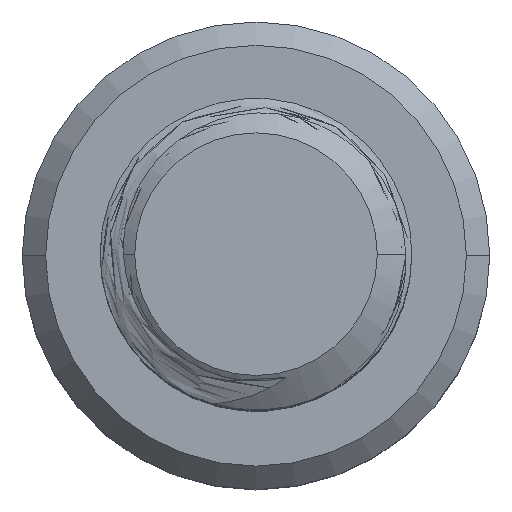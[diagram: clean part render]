
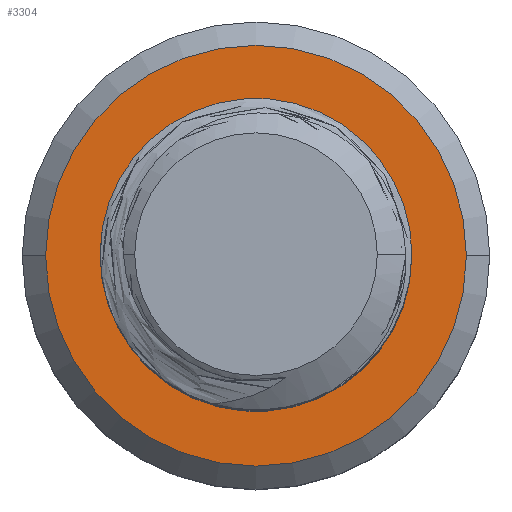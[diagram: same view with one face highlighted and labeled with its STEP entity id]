
A CAD part, top view. The second image highlights one B-rep face of the part: STEP entity #3304.
In plain terms, the highlighted planar face has unit normal (0, 0, 1).
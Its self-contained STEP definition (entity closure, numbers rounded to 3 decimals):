
#55 = CARTESIAN_POINT ( 'NONE',  ( -6.168, -1.765, -40. ) ) ;
#71 = CARTESIAN_POINT ( 'NONE',  ( -5.319, 4.517, -40. ) ) ;
#138 = DIRECTION ( 'NONE',  ( -1., 0., 0. ) ) ;
#173 = CARTESIAN_POINT ( 'NONE',  ( 5.642, 3.058, -40. ) ) ;
#185 = CARTESIAN_POINT ( 'NONE',  ( 3.994, -4.068, -40. ) ) ;
#188 = B_SPLINE_CURVE_WITH_KNOTS ( 'NONE', 3,
 ( #3936, #2180, #460, #3524, #898, #3951, #1339, #4393, #1777, #4820, #2199, #5261, #2643, #55, #3091, #479, #3543, #918, #3972, #1357, #4411, #1797, #4838, #2214, #5282, #2664, #71, #3105 ),
 .UNSPECIFIED., .F., .F.,
 ( 4, 2, 2, 2, 2, 2, 2, 2, 2, 2, 2, 2, 2, 4 ),
 ( 0., 0.001, 0.002, 0.004, 0.006, 0.007, 0.008, 0.008, 0.009, 0.01, 0.011, 0.012, 0.013, 0.015 ),
 .UNSPECIFIED. ) ;
#195 = CARTESIAN_POINT ( 'NONE',  ( 0., 0., -40. ) ) ;
#250 = DIRECTION ( 'NONE',  ( 0., 0., 1. ) ) ;
#255 = VERTEX_POINT ( 'NONE', #5531 ) ;
#276 = ORIENTED_EDGE ( 'NONE', *, *, #3995, .T. ) ;
#285 = CIRCLE ( 'NONE', #5382, 9.45 ) ;
#456 = EDGE_CURVE ( 'NONE', #2930, #255, #285, .T. ) ;
#460 = CARTESIAN_POINT ( 'NONE',  ( -0.63, -5.731, -40. ) ) ;
#479 = CARTESIAN_POINT ( 'NONE',  ( -6.44, -0.863, -40. ) ) ;
#579 = CARTESIAN_POINT ( 'NONE',  ( 1.243, 6.823, -40. ) ) ;
#596 = CARTESIAN_POINT ( 'NONE',  ( 5.955, 2.176, -40. ) ) ;
#598 = AXIS2_PLACEMENT_3D ( 'NONE', #4899, #2739, #138 ) ;
#634 = DIRECTION ( 'NONE',  ( -1., 0., 0. ) ) ;
#667 = AXIS2_PLACEMENT_3D ( 'NONE', #4747, #2128, #5195 ) ;
#759 = CARTESIAN_POINT ( 'NONE',  ( 0., 0., -40. ) ) ;
#898 = CARTESIAN_POINT ( 'NONE',  ( -1.571, -5.639, -40. ) ) ;
#918 = CARTESIAN_POINT ( 'NONE',  ( -6.58, 0.066, -40. ) ) ;
#1020 = CARTESIAN_POINT ( 'NONE',  ( 2.42, 6.367, -40. ) ) ;
#1041 = CARTESIAN_POINT ( 'NONE',  ( 6.132, 1.248, -40. ) ) ;
#1177 = DIRECTION ( 'NONE',  ( 1., 0., 0. ) ) ;
#1293 = CARTESIAN_POINT ( 'NONE',  ( 3.994, -4.068, -40. ) ) ;
#1339 = CARTESIAN_POINT ( 'NONE',  ( -3.073, -5.188, -40. ) ) ;
#1357 = CARTESIAN_POINT ( 'NONE',  ( -6.585, 1.012, -40. ) ) ;
#1372 = VERTEX_POINT ( 'NONE', #4092 ) ;
#1460 = CARTESIAN_POINT ( 'NONE',  ( 3.236, 5.903, -40. ) ) ;
#1471 = CARTESIAN_POINT ( 'NONE',  ( 6.163, 0.308, -40. ) ) ;
#1653 = VERTEX_POINT ( 'NONE', #2471 ) ;
#1777 = CARTESIAN_POINT ( 'NONE',  ( -4.633, -4.127, -40. ) ) ;
#1797 = CARTESIAN_POINT ( 'NONE',  ( -6.455, 1.94, -40. ) ) ;
#1897 = CARTESIAN_POINT ( 'NONE',  ( 3.982, 5.327, -40. ) ) ;
#1917 = CARTESIAN_POINT ( 'NONE',  ( 6.05, -0.628, -40. ) ) ;
#2128 = DIRECTION ( 'NONE',  ( 0., 0., 1. ) ) ;
#2129 = DIRECTION ( 'NONE',  ( -1., 0., 0. ) ) ;
#2131 = CARTESIAN_POINT ( 'NONE',  ( 9.45, 0., -40. ) ) ;
#2180 = CARTESIAN_POINT ( 'NONE',  ( -0.316, -5.729, -40. ) ) ;
#2199 = CARTESIAN_POINT ( 'NONE',  ( -5.438, -3.152, -40. ) ) ;
#2211 = B_SPLINE_CURVE_WITH_KNOTS ( 'NONE', 3,
 ( #3106, #5265, #579, #3648, #1020, #4073, #1460, #4509, #1897, #4951, #2320, #5378, #2769, #173, #3219, #596, #3662, #1041, #4093, #1471, #4525, #1917, #4969, #2335, #5402, #2791, #185 ),
 .UNSPECIFIED., .F., .F.,
 ( 4, 2, 2, 2, 2, 1, 2, 2, 2, 2, 2, 2, 2, 4 ),
 ( 0., 0.002, 0.003, 0.004, 0.005, 0.006, 0.007, 0.007, 0.008, 0.009, 0.01, 0.011, 0.013, 0.015 ),
 .UNSPECIFIED. ) ;
#2214 = CARTESIAN_POINT ( 'NONE',  ( -6.192, 2.85, -40. ) ) ;
#2294 = ORIENTED_EDGE ( 'NONE', *, *, #5238, .T. ) ;
#2320 = CARTESIAN_POINT ( 'NONE',  ( 4.848, 4.416, -40. ) ) ;
#2335 = CARTESIAN_POINT ( 'NONE',  ( 5.571, -2.121, -40. ) ) ;
#2471 = CARTESIAN_POINT ( 'NONE',  ( 0., -5.701, -40. ) ) ;
#2477 = CIRCLE ( 'NONE', #667, 7. ) ;
#2568 = FACE_OUTER_BOUND ( 'NONE', #4083, .T. ) ;
#2598 = ORIENTED_EDGE ( 'NONE', *, *, #5049, .T. ) ;
#2643 = CARTESIAN_POINT ( 'NONE',  ( -5.915, -2.343, -40. ) ) ;
#2664 = CARTESIAN_POINT ( 'NONE',  ( -5.668, 3.985, -40. ) ) ;
#2702 = EDGE_CURVE ( 'NONE', #255, #2930, #2846, .T. ) ;
#2739 = DIRECTION ( 'NONE',  ( 0., 0., -1. ) ) ;
#2769 = CARTESIAN_POINT ( 'NONE',  ( 5.505, 3.344, -40. ) ) ;
#2791 = CARTESIAN_POINT ( 'NONE',  ( 4.488, -3.669, -40. ) ) ;
#2846 = CIRCLE ( 'NONE', #4428, 9.45 ) ;
#2930 = VERTEX_POINT ( 'NONE', #2131 ) ;
#3091 = CARTESIAN_POINT ( 'NONE',  ( -6.274, -1.467, -40. ) ) ;
#3105 = CARTESIAN_POINT ( 'NONE',  ( -4.904, 4.995, -40. ) ) ;
#3106 = CARTESIAN_POINT ( 'NONE',  ( 0., 7., -40. ) ) ;
#3219 = CARTESIAN_POINT ( 'NONE',  ( 5.866, 2.475, -40. ) ) ;
#3241 = DIRECTION ( 'NONE',  ( 0., 0., 1. ) ) ;
#3304 = ADVANCED_FACE ( 'NONE', ( #2568, #5583 ), #5346, .F. ) ;
#3524 = CARTESIAN_POINT ( 'NONE',  ( -1.257, -5.687, -40. ) ) ;
#3543 = CARTESIAN_POINT ( 'NONE',  ( -6.501, -0.557, -40. ) ) ;
#3586 = CARTESIAN_POINT ( 'NONE',  ( -4.904, 4.995, -40. ) ) ;
#3608 = ORIENTED_EDGE ( 'NONE', *, *, #2702, .T. ) ;
#3611 = ORIENTED_EDGE ( 'NONE', *, *, #4335, .F. ) ;
#3648 = CARTESIAN_POINT ( 'NONE',  ( 2.129, 6.497, -40. ) ) ;
#3662 = CARTESIAN_POINT ( 'NONE',  ( 6.088, 1.564, -40. ) ) ;
#3806 = DIRECTION ( 'NONE',  ( 0., 0., -1. ) ) ;
#3936 = CARTESIAN_POINT ( 'NONE',  ( 0., -5.701, -40. ) ) ;
#3951 = CARTESIAN_POINT ( 'NONE',  ( -2.492, -5.424, -40. ) ) ;
#3972 = CARTESIAN_POINT ( 'NONE',  ( -6.597, 0.384, -40. ) ) ;
#3995 = EDGE_CURVE ( 'NONE', #1653, #4894, #188, .T. ) ;
#4034 = EDGE_LOOP ( 'NONE', ( #3611, #2598, #2294, #276 ) ) ;
#4073 = CARTESIAN_POINT ( 'NONE',  ( 2.972, 6.07, -40. ) ) ;
#4083 = EDGE_LOOP ( 'NONE', ( #3608, #4582 ) ) ;
#4086 = CARTESIAN_POINT ( 'NONE',  ( 0., 0., -40. ) ) ;
#4092 = CARTESIAN_POINT ( 'NONE',  ( 0., 7., -40. ) ) ;
#4093 = CARTESIAN_POINT ( 'NONE',  ( 6.169, 0.62, -40. ) ) ;
#4281 = AXIS2_PLACEMENT_3D ( 'NONE', #759, #3806, #1177 ) ;
#4335 = EDGE_CURVE ( 'NONE', #1372, #4894, #2477, .T. ) ;
#4393 = CARTESIAN_POINT ( 'NONE',  ( -4.156, -4.531, -40. ) ) ;
#4411 = CARTESIAN_POINT ( 'NONE',  ( -6.557, 1.323, -40. ) ) ;
#4428 = AXIS2_PLACEMENT_3D ( 'NONE', #195, #3241, #634 ) ;
#4489 = CIRCLE ( 'NONE', #4281, 5.701 ) ;
#4509 = CARTESIAN_POINT ( 'NONE',  ( 3.74, 5.532, -40. ) ) ;
#4525 = CARTESIAN_POINT ( 'NONE',  ( 6.104, -0.315, -40. ) ) ;
#4582 = ORIENTED_EDGE ( 'NONE', *, *, #456, .T. ) ;
#4747 = CARTESIAN_POINT ( 'NONE',  ( 0., 0., -40. ) ) ;
#4820 = CARTESIAN_POINT ( 'NONE',  ( -5.252, -3.407, -40. ) ) ;
#4838 = CARTESIAN_POINT ( 'NONE',  ( -6.382, 2.248, -40. ) ) ;
#4894 = VERTEX_POINT ( 'NONE', #3586 ) ;
#4899 = CARTESIAN_POINT ( 'NONE',  ( 0., 0., -40. ) ) ;
#4951 = CARTESIAN_POINT ( 'NONE',  ( 4.433, 4.885, -40. ) ) ;
#4969 = CARTESIAN_POINT ( 'NONE',  ( 5.816, -1.546, -40. ) ) ;
#5049 = EDGE_CURVE ( 'NONE', #1372, #5370, #2211, .T. ) ;
#5195 = DIRECTION ( 'NONE',  ( 1., 0., 0. ) ) ;
#5238 = EDGE_CURVE ( 'NONE', #5370, #1653, #4489, .T. ) ;
#5261 = CARTESIAN_POINT ( 'NONE',  ( -5.768, -2.62, -40. ) ) ;
#5265 = CARTESIAN_POINT ( 'NONE',  ( 0.632, 6.955, -40. ) ) ;
#5282 = CARTESIAN_POINT ( 'NONE',  ( -6.076, 3.141, -40. ) ) ;
#5346 = PLANE ( 'NONE',  #598 ) ;
#5370 = VERTEX_POINT ( 'NONE', #1293 ) ;
#5378 = CARTESIAN_POINT ( 'NONE',  ( 5.194, 3.894, -40. ) ) ;
#5382 = AXIS2_PLACEMENT_3D ( 'NONE', #4086, #250, #2129 ) ;
#5402 = CARTESIAN_POINT ( 'NONE',  ( 4.9, -3.198, -40. ) ) ;
#5531 = CARTESIAN_POINT ( 'NONE',  ( -9.45, 0., -40. ) ) ;
#5583 = FACE_BOUND ( 'NONE', #4034, .T. ) ;
